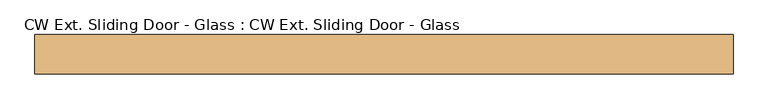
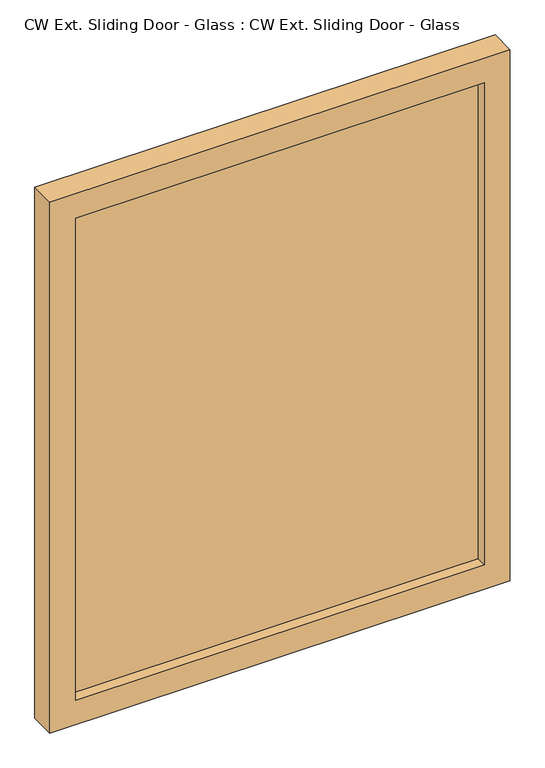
"""IFC4 building model written with IfcOpenShell, lengths in millimetres: door geometry, CW Ext. Sliding Door - Glass : CW Ext. Sliding Door - Glass."""

from ifc_helpers import new_model, si_unit, frame, origin, place, context, project, spatial, polyline, outline, extrude, source, transform, mapped, element, save


def cw_ext_sliding_door_glass_cw_ext_sliding_door_glass_9f4413b3(model_context):
    return source(origin(), model_context, "Body", "SweptSolid", [
        extrude(outline(polyline([(-792.5, -41.0), (792.5, -41.0), (792.5, -59.0), (-792.5, -59.0), (-792.5, -41.0)])), frame((0.0, 0.0, 100.0), z_axis=(0.0, 0.0, 1.0), x_axis=(1.0, 0.0, 0.0)), (0.0, 0.0, 1.0), 1975.0),
        extrude(outline(polyline([(2175.0, -892.5), (0.0, -892.5), (0.0, 892.5), (2175.0, 892.5), (2175.0, -892.5)]), holes=[polyline([(2075.0, -792.5), (2075.0, 792.5), (100.0, 792.5), (100.0, -792.5), (2075.0, -792.5)])]), frame((0.0, -100.0, 0.0), z_axis=(0.0, 1.0, 0.0), x_axis=(0.0, 0.0, 1.0)), (0.0, 0.0, 1.0), 100.0),
    ])


if __name__ == "__main__":
    model = new_model("IFC4")
    model_context = context("Model", 3, world=origin())
    ifc_project = project(units=[si_unit("LENGTHUNIT", "METRE", prefix="MILLI")], contexts=[model_context])
    site = spatial("IfcSite", under=ifc_project)
    building = spatial("IfcBuilding", under=site)
    placement = place(None, origin())
    cw_ext_sliding_door_glass_cw_ext_sliding_door_glass_shape = cw_ext_sliding_door_glass_cw_ext_sliding_door_glass_9f4413b3(model_context)
    element("IfcDoor", 1, ObjectType="CW Ext. Sliding Door - Glass : CW Ext. Sliding Door - Glass", at=placement, inside=building, context=model_context, shape_type="MappedRepresentation", body=[
        mapped(cw_ext_sliding_door_glass_cw_ext_sliding_door_glass_shape, transform((0.0, 0.0, 0.0), x_axis=(1.0, 0.0, 0.0), y_axis=(0.0, 1.0, 0.0), z_axis=(0.0, 0.0, 1.0))),
    ])
    save(model, "model.ifc")
